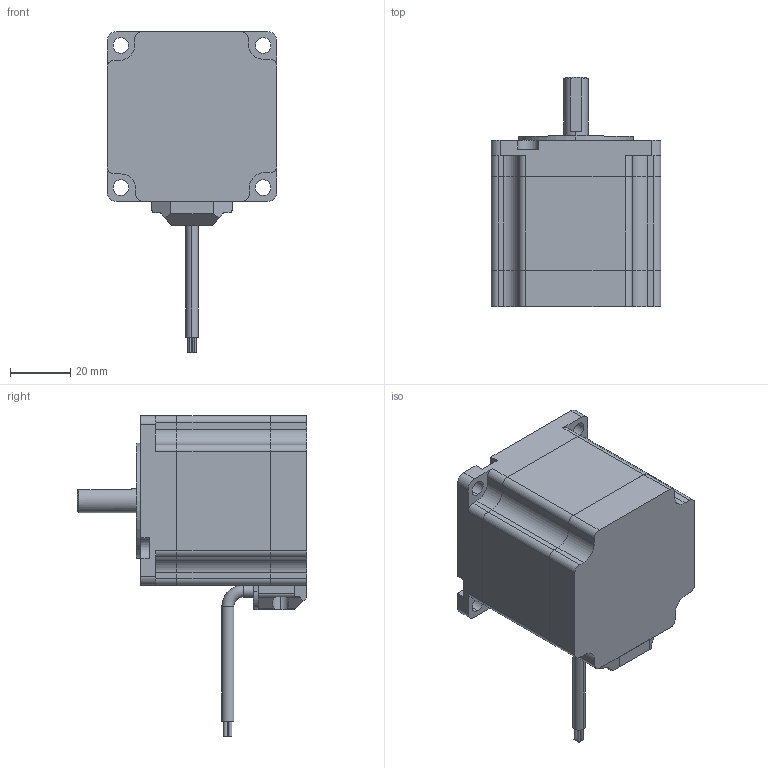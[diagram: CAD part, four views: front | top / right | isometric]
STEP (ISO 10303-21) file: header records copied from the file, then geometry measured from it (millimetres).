
FILE_DESCRIPTION (( 'STEP AP203' ), '1' );
FILE_NAME ('57HS255-3-4A-D8L21.STEP', '2020-04-08T03:34:05', ( '' ), ( '' ), 'SwSTEP 2.0', 'SolidWorks 2017', '' );
FILE_SCHEMA (( 'CONFIG_CONTROL_DESIGN' ));
Length unit declared in the file: millimetre
Products named in the file (1): 57HS255-3-4A-D8L21
Bounding box: 56.2 x 76 x 106.2 mm (x, y, z)
Volume: 161964.8 mm3; surface area: 24646.1 mm2
Topology: 3 solids, 3 shells, 197 faces, 535 edges, 353 vertices
Faces by surface type: cylinder 97, plane 94, cone 4, torus 2
Entity records: 6403 total; most frequent: CARTESIAN_POINT 1188, DIRECTION 1104, ORIENTED_EDGE 1070, EDGE_CURVE 535, AXIS2_PLACEMENT_3D 391, VERTEX_POINT 353, LINE 322, VECTOR 322
